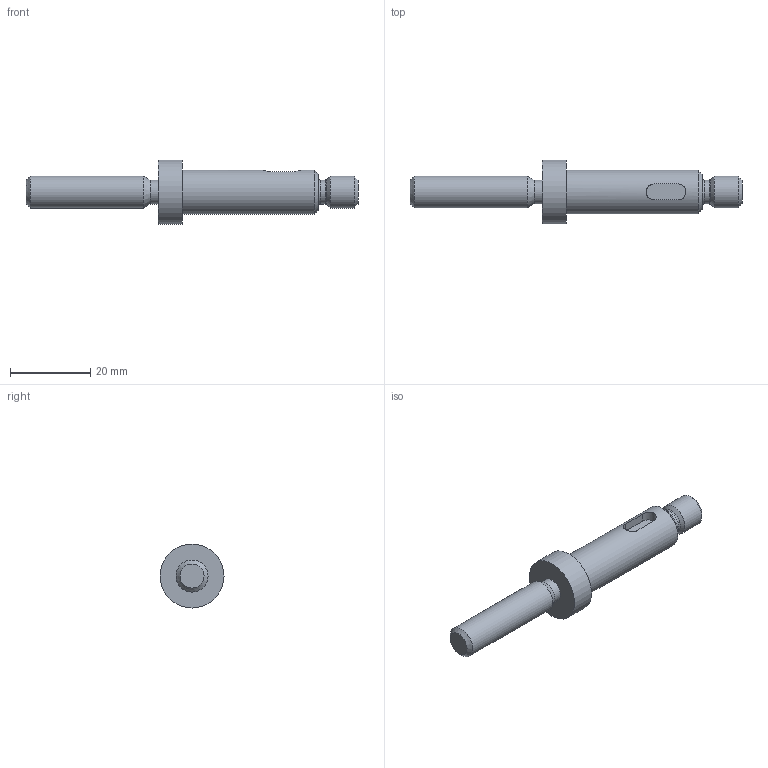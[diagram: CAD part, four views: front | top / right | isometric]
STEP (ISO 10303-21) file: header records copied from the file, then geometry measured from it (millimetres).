
FILE_DESCRIPTION(/* description */ (''),/* implementation_level */ '2;1');
FILE_NAME(/* name */ '',/* time_stamp */ '2026-08-27T17:04:50+09:00',/* author */ ('jhkim'),/* organization */ (''),/* preprocessor_version */ 'ST-DEVELOPER v20.1',/* originating_system */ 'Autodesk Inventor 2027',/* authorisation */ '');
FILE_SCHEMA (('AUTOMOTIVE_DESIGN { 1 0 10303 214 3 1 1 }'));
Length unit declared in the file: millimetre
Products named in the file (1): 나사축
Bounding box: 83 x 16 x 16 mm (x, y, z)
Volume: 6354.6 mm3; surface area: 2979.7 mm2
Topology: 1 solids, 1 shells, 23 faces, 49 edges, 32 vertices
Faces by surface type: cylinder 8, plane 8, cone 5, torus 2
Full cylindrical faces by diameter (mm): 6 x2, 8 x2, 11 x1, 16 x1
Entity records: 708 total; most frequent: CARTESIAN_POINT 139, DIRECTION 123, ORIENTED_EDGE 98, AXIS2_PLACEMENT_3D 52, EDGE_CURVE 49, VERTEX_POINT 32, CIRCLE 28, EDGE_LOOP 27
